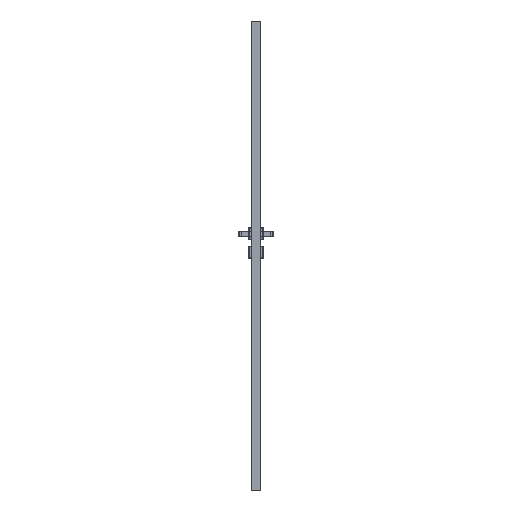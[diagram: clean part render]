
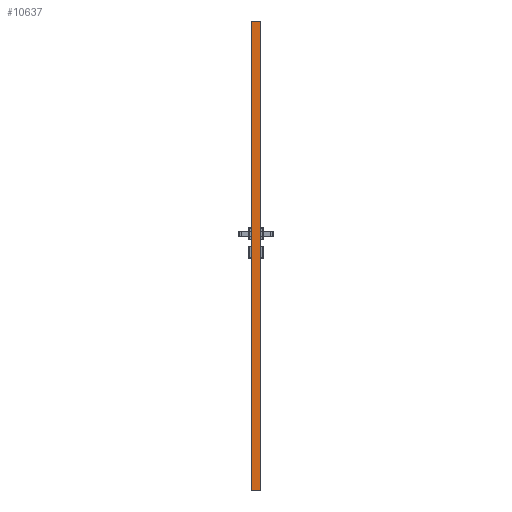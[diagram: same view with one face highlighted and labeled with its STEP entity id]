
A CAD part, left-side view. The second image highlights one B-rep face of the part: STEP entity #10637.
In plain terms, the highlighted planar face has unit normal (-1, 0, 0).
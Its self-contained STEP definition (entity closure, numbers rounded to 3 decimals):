
#6783=FACE_OUTER_BOUND('',#17383,.T.);
#10637=ADVANCED_FACE('',(#6783),#13976,.F.);
#13976=PLANE('',#67791);
#17383=EDGE_LOOP('',(#24264,#24265,#24266,#24267,#24268,#24269));
#24264=ORIENTED_EDGE('',*,*,#47578,.T.);
#24265=ORIENTED_EDGE('',*,*,#47575,.F.);
#24266=ORIENTED_EDGE('',*,*,#47482,.T.);
#24267=ORIENTED_EDGE('',*,*,#47524,.T.);
#24268=ORIENTED_EDGE('',*,*,#47530,.T.);
#24269=ORIENTED_EDGE('',*,*,#47478,.T.);
#40812=VERTEX_POINT('',#95738);
#40813=VERTEX_POINT('',#95740);
#40815=VERTEX_POINT('',#95746);
#40817=VERTEX_POINT('',#95749);
#40855=VERTEX_POINT('',#95841);
#40891=VERTEX_POINT('',#95960);
#47478=EDGE_CURVE('',#40813,#40812,#56189,.T.);
#47482=EDGE_CURVE('',#40817,#40815,#56193,.T.);
#47524=EDGE_CURVE('',#40815,#40855,#56227,.T.);
#47530=EDGE_CURVE('',#40855,#40813,#56232,.T.);
#47575=EDGE_CURVE('',#40817,#40891,#56272,.T.);
#47578=EDGE_CURVE('',#40812,#40891,#56275,.T.);
#56189=LINE('',#95739,#61813);
#56193=LINE('',#95748,#61817);
#56227=LINE('',#95843,#61851);
#56232=LINE('',#95856,#61856);
#56272=LINE('',#95959,#61896);
#56275=LINE('',#95965,#61899);
#61813=VECTOR('',#74245,1.);
#61817=VECTOR('',#74251,1.);
#61851=VECTOR('',#74295,1.);
#61856=VECTOR('',#74306,1.);
#61896=VECTOR('',#74366,1.);
#61899=VECTOR('',#74371,1.);
#67791=AXIS2_PLACEMENT_3D('',#95966,#74372,#74373);
#74245=DIRECTION('',(0.,-1.,0.));
#74251=DIRECTION('',(0.,1.,0.));
#74295=DIRECTION('',(0.,0.,-1.));
#74306=DIRECTION('',(0.,-0.894,-0.447));
#74366=DIRECTION('',(0.,0.,-1.));
#74371=DIRECTION('',(0.,-0.894,0.447));
#74372=DIRECTION('',(1.,0.,0.));
#74373=DIRECTION('',(0.,0.,-1.));
#95738=CARTESIAN_POINT('',(-309.,-38.,0.));
#95739=CARTESIAN_POINT('',(-309.,0.,0.));
#95740=CARTESIAN_POINT('',(-309.,-2.,0.));
#95746=CARTESIAN_POINT('',(-309.,0.,2017.));
#95748=CARTESIAN_POINT('',(-309.,-40.,2017.));
#95749=CARTESIAN_POINT('',(-309.,-40.,2017.));
#95841=CARTESIAN_POINT('',(-309.,0.,1.));
#95843=CARTESIAN_POINT('',(-309.,0.,2250.));
#95856=CARTESIAN_POINT('',(-309.,0.,1.));
#95959=CARTESIAN_POINT('',(-309.,-40.,2250.));
#95960=CARTESIAN_POINT('',(-309.,-40.,1.));
#95965=CARTESIAN_POINT('',(-309.,-38.,0.));
#95966=CARTESIAN_POINT('',(-309.,0.,2250.));
